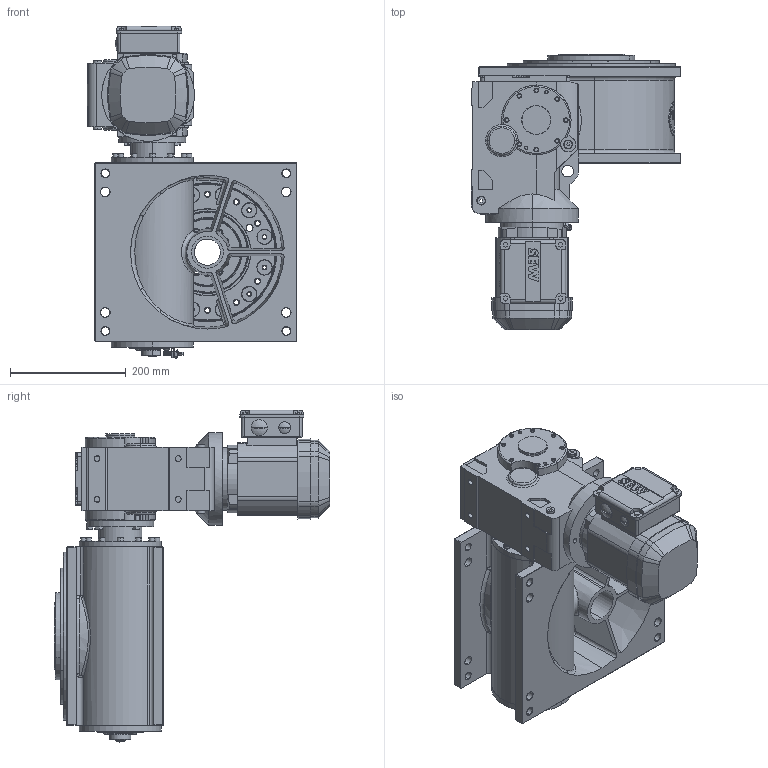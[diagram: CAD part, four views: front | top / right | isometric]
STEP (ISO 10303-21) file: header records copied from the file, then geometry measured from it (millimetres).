
FILE_DESCRIPTION (( 'STEP AP214' ), '1' );
FILE_NAME ('M235_SEW_KA47DRS71S4_D2_12.STEP', '2020-06-17T05:33:54', ( '' ), ( '' ), 'SwSTEP 2.0', 'SolidWorks 2020', '' );
FILE_SCHEMA (( 'AUTOMOTIVE_DESIGN' ));
Length unit declared in the file: millimetre
Products named in the file (1): M235_SEW_KA47DRS71S4_D2_12
Bounding box: 361 x 475.5 x 572.46 mm (x, y, z)
Surface area: 1115799.1 mm2 (no closed solid volume)
Topology: 0 solids, 94 shells, 1603 faces, 4813 edges, 3232 vertices
Faces by surface type: plane 602, cylinder 537, cone 258, bspline 98, torus 88, sphere 20
Entity records: 82670 total; most frequent: CARTESIAN_POINT 22384, DIRECTION 9074, ORIENTED_EDGE 8161, EDGE_CURVE 4774, AXIS2_PLACEMENT_3D 3348, VERTEX_POINT 3232, VECTOR 2378, LINE 2378
